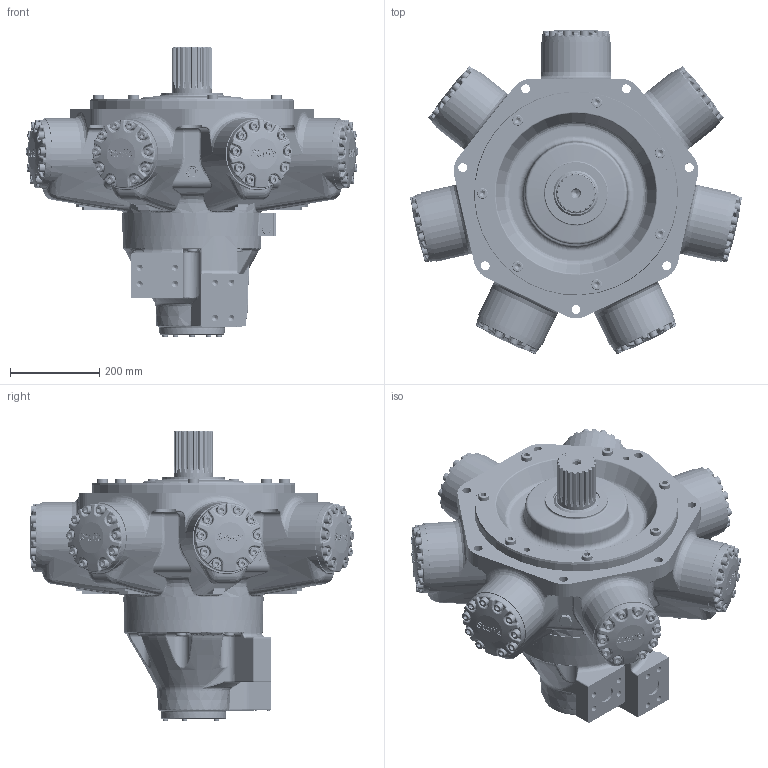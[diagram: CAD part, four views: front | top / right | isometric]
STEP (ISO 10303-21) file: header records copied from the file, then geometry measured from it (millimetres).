
FILE_DESCRIPTION(/* description */ (''),/* implementation_level */ '2;1');
FILE_NAME(/* name */ 'HMC325_S3_FM4_C.stp',/* time_stamp */ '2025-06-12T14:38:44+01:00',/* author */ ('ccallanga'),/* organization */ (''),/* preprocessor_version */ 'ST-DEVELOPER v20',/* originating_system */ 'Autodesk Inventor 2024',/* authorisation */ '');
FILE_SCHEMA (('AUTOMOTIVE_DESIGN { 1 0 10303 214 3 1 1 }'));
Products named in the file (1): 017753 HMC325 Web Assembly_Simplify_1
Bounding box: 744.35 x 728.18 x 648.78 mm (x, y, z)
Volume: 76082938.8 mm3; surface area: 1755281.6 mm2
Topology: 1 solids, 1 shells, 6170 faces, 14931 edges, 8793 vertices
Faces by surface type: bspline 2360, plane 1606, cylinder 1297, torus 565, cone 178, sphere 164
Full cylindrical faces by diameter (mm): 4 x1, 4.134 x4, 5 x4, 5.5 x4, 6.05 x2, 11.913 x5, 12.7 x5, 13.843 x8, 14.351 x2, 16.51 x1, 17.323 x1, 19 x1, 19.05 x70, 20 x7, 20.637 x70, 23.825 x14, 25 x1, 25.4 x14, 26.92 x2, 38.1 x5, 87.884 x1, 101.575 x1, 106.68 x1, 139.7 x1, 146 x1, 146.05 x1, 311 x1, 311.15 x1, 457.11 x1
Entity records: 274469 total; most frequent: CARTESIAN_POINT 142471, ORIENTED_EDGE 29282, DIRECTION 20937, EDGE_CURVE 14641, VERTEX_POINT 8793, AXIS2_PLACEMENT_3D 8214, EDGE_LOOP 6504, STYLED_ITEM 6171
